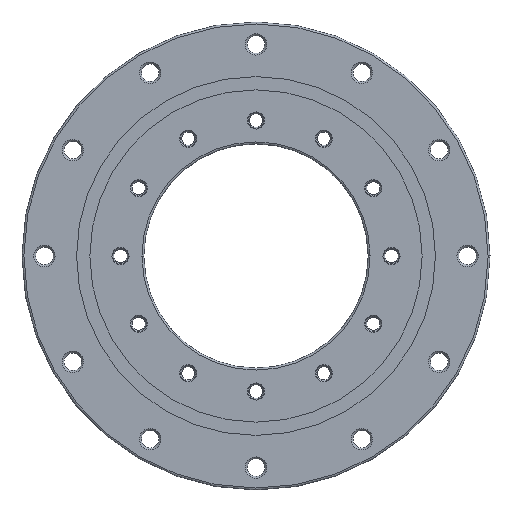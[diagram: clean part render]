
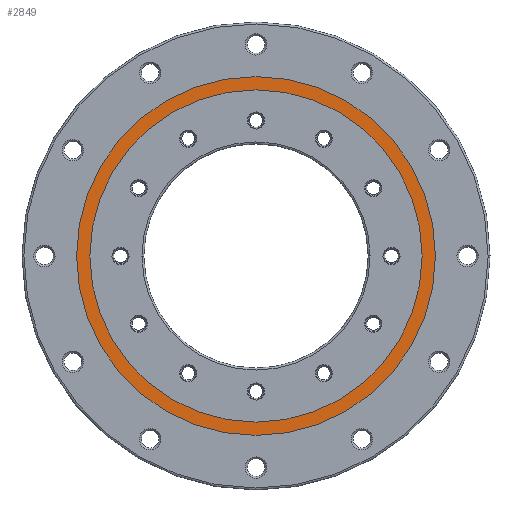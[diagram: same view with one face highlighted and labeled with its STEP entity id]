
A CAD part, front view. The second image highlights one B-rep face of the part: STEP entity #2849.
In plain terms, the highlighted planar face has unit normal (0, -1, 0).
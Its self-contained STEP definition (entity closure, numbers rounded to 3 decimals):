
#2849=ADVANCED_FACE('',(#7366,#7367),#7368,.T.);
#2907=VERTEX_POINT('',#7433);
#2967=EDGE_CURVE('',#2907,#3675,#7498,.T.);
#3675=VERTEX_POINT('',#8309);
#4029=EDGE_CURVE('',#3675,#2907,#8702,.T.);
#4387=EDGE_CURVE('',#6811,#6611,#9108,.T.);
#5709=EDGE_CURVE('',#6611,#6811,#10567,.T.);
#6611=VERTEX_POINT('',#11606);
#6811=VERTEX_POINT('',#11827);
#7366=FACE_OUTER_BOUND('',#12561,.T.);
#7367=FACE_BOUND('',#12562,.T.);
#7368=PLANE('',#12563);
#7433=CARTESIAN_POINT('',(-92.0,-1.3,0.));
#7498=CIRCLE('',#12736,92.0);
#8309=CARTESIAN_POINT('',(92.0,-1.3,0.));
#8702=CIRCLE('',#14262,92.0);
#9108=CIRCLE('',#14772,85.2);
#10567=CIRCLE('',#16666,85.2);
#11606=CARTESIAN_POINT('',(-85.2,-1.3,0.));
#11827=CARTESIAN_POINT('',(85.2,-1.3,0.0));
#12561=EDGE_LOOP('',(#18898,#18899));
#12562=EDGE_LOOP('',(#18900,#18901));
#12563=AXIS2_PLACEMENT_3D('',#18902,#18903,#18904);
#12736=AXIS2_PLACEMENT_3D('',#19069,#19070,#19071);
#14262=AXIS2_PLACEMENT_3D('',#20687,#20688,#20689);
#14772=AXIS2_PLACEMENT_3D('',#21208,#21209,#21210);
#16666=AXIS2_PLACEMENT_3D('',#23056,#23057,#23058);
#18898=ORIENTED_EDGE('',*,*,#4029,.T.);
#18899=ORIENTED_EDGE('',*,*,#2967,.T.);
#18900=ORIENTED_EDGE('',*,*,#4387,.T.);
#18901=ORIENTED_EDGE('',*,*,#5709,.T.);
#18902=CARTESIAN_POINT('',(0.0,-1.3,0.0));
#18903=DIRECTION('',(0.0,-1.0,0.0));
#18904=DIRECTION('',(-1.0,0.0,0.0));
#19069=CARTESIAN_POINT('',(0.0,-1.3,0.0));
#19070=DIRECTION('',(0.0,-1.0,0.0));
#19071=DIRECTION('',(-1.0,0.0,0.0));
#20687=CARTESIAN_POINT('',(0.0,-1.3,0.0));
#20688=DIRECTION('',(0.0,-1.0,0.0));
#20689=DIRECTION('',(1.0,0.0,0.0));
#21208=CARTESIAN_POINT('',(0.0,-1.3,0.0));
#21209=DIRECTION('',(-0.0,1.0,0.0));
#21210=DIRECTION('',(1.0,0.0,0.0));
#23056=CARTESIAN_POINT('',(0.0,-1.3,0.0));
#23057=DIRECTION('',(0.0,1.0,0.0));
#23058=DIRECTION('',(-1.0,0.0,0.0));
